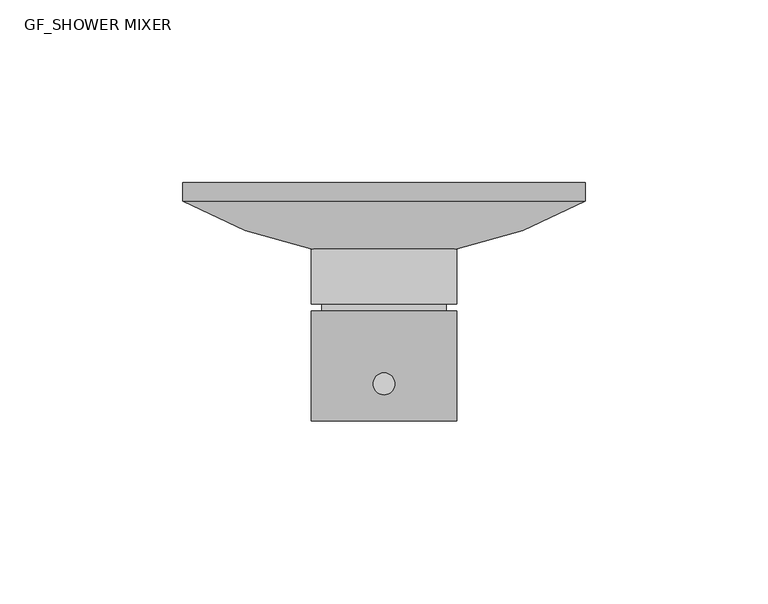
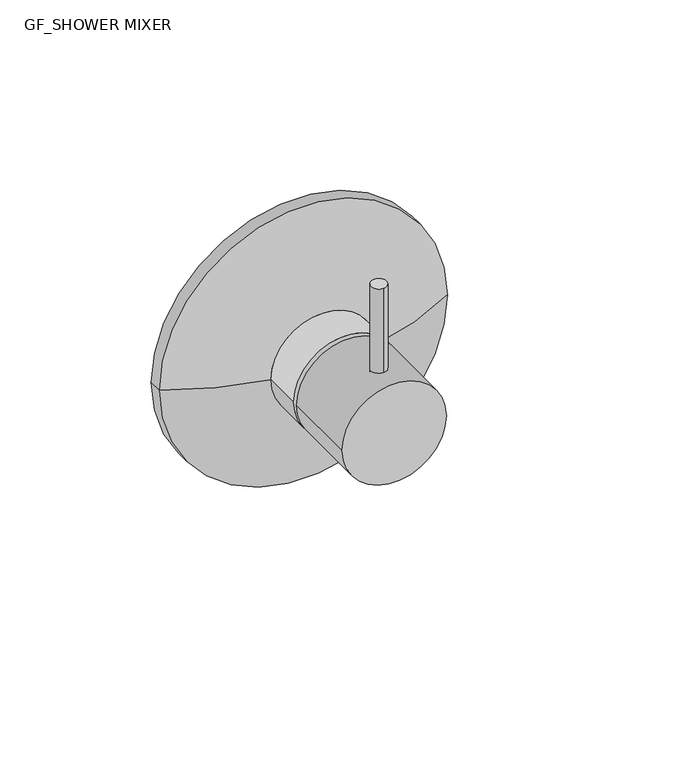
"""IFC4 building model written with IfcOpenShell, lengths in millimetres: flow terminal geometry, GF_SHOWER MIXER : Monomando ducha SPA."""

from ifc_helpers import new_model, si_unit, point, frame, frame_2d, origin, place, context, project, spatial, circle_curve, ellipse_curve, trimmed, segment, composite_curve, outline, extrude, source, transform, mapped, element, save
from ifc_brep_helpers import plane_surface, cylinder_surface, revolved_surface, advanced_brep


def gf_shower_mixer_4253410c(model_context):
    return source(origin(), model_context, "Body", "SolidModel", [
        extrude(outline(composite_curve([segment(trimmed(circle_curve(frame_2d((1092.2, -12.1185542)), 19.84375), [point((1092.2, 7.7251958))], [point((1092.2, -31.9623042))], False, "CARTESIAN"), True, "CONTINUOUS"), segment(trimmed(circle_curve(frame_2d((1092.2, -12.1185542)), 19.84375), [point((1092.2, -31.9623042))], [point((1092.2, 7.7251958))], False, "CARTESIAN"), True, "CONTINUOUS")], self_intersect=False)), frame((0.0, -70.1867187, 0.0), z_axis=(0.0, 1.0, 0.0), x_axis=(0.0, 0.0, 1.0)), (0.0, 0.0, 1.0), 30.0632812),
        extrude(outline(composite_curve([segment(trimmed(circle_curve(frame_2d((-12.1185542, -60.0414784)), 2.9971637), [point((-12.1185542, -63.038642))], [point((-12.1185542, -57.0443147))], False, "CARTESIAN"), True, "CONTINUOUS"), segment(trimmed(circle_curve(frame_2d((-12.1185542, -60.0414784)), 2.9971637), [point((-12.1185542, -57.0443147))], [point((-12.1185542, -63.038642))], False, "CARTESIAN"), True, "CONTINUOUS")], self_intersect=False)), frame((0.0, 0.0, 1092.2), z_axis=(0.0, 0.0, 1.0), x_axis=(1.0, 0.0, 0.0)), (0.0, 0.0, 1.0), 53.975),
        extrude(outline(composite_curve([segment(trimmed(circle_curve(frame_2d((1092.2, -12.1185542)), 19.84375), [point((1092.2, 7.7251958))], [point((1092.2, -31.9623042))], False, "CARTESIAN"), True, "CONTINUOUS"), segment(trimmed(circle_curve(frame_2d((1092.2, -12.1185542)), 19.84375), [point((1092.2, -31.9623042))], [point((1092.2, 7.7251958))], False, "CARTESIAN"), True, "CONTINUOUS")], self_intersect=False)), frame((0.0, -38.1718998, 0.0), z_axis=(0.0, 1.0, 0.0), x_axis=(0.0, 0.0, 1.0)), (0.0, 0.0, 1.0), 15.0),
        extrude(outline(composite_curve([segment(trimmed(circle_curve(frame_2d((1092.2, -12.1185542)), 17.0), [point((1092.2, -29.1185542))], [point((1092.2, 4.8814458))], False, "CARTESIAN"), True, "CONTINUOUS"), segment(trimmed(circle_curve(frame_2d((1092.2, -12.1185542)), 17.0), [point((1092.2, 4.8814458))], [point((1092.2, -29.1185542))], False, "CARTESIAN"), True, "CONTINUOUS")], self_intersect=False)), frame((0.0, -40.1718998, 0.0), z_axis=(0.0, 1.0, 0.0), x_axis=(0.0, 0.0, 1.0)), (0.0, 0.0, 1.0), 2.0),
        advanced_brep(
        [(42.8814458, -5.0, 1092.2), (42.8814458, -10.0, 1092.2), (-67.1185542, -10.0, 1092.2), (-67.1185542, -5.0, 1092.2), (-12.1185542, -5.0, 1092.2), (7.6992767, -23.1718998, 1092.2), (-12.1185542, -23.1718998, 1092.2), (-31.9363851, -23.1718998, 1092.2)],
        [
            (0, 1),
            (1, 2, circle_curve(frame((-12.1185542, -10.0, 1092.2), z_axis=(0.0, 1.0, 0.0), x_axis=(-1.0, 0.0, 0.0)), 55.0)),
            (2, 3),
            (3, 0, circle_curve(frame((-12.1185542, -5.0, 1092.2), z_axis=(0.0, -1.0, 0.0), x_axis=(-1.0, 0.0, 0.0)), 55.0)),
            (2, 1, circle_curve(frame((-12.1185542, -10.0, 1092.2), z_axis=(0.0, 1.0, 0.0), x_axis=(-1.0, 0.0, 0.0)), 55.0)),
            (0, 3, circle_curve(frame((-12.1185542, -5.0, 1092.2), z_axis=(0.0, -1.0, 0.0), x_axis=(-1.0, 0.0, 0.0)), 55.0)),
            (4, 0),
            (3, 4),
            (5, 6),
            (6, 7),
            (7, 5, circle_curve(frame((-12.1185542, -23.1718998, 1092.2), z_axis=(0.0, -1.0, 0.0), x_axis=(-1.0, 0.0, 0.0)), 19.8178309)),
            (5, 7, circle_curve(frame((-12.1185542, -23.1718998, 1092.2), z_axis=(0.0, -1.0, 0.0), x_axis=(-1.0, 0.0, 0.0)), 19.8178309)),
            (1, 5, circle_curve(frame((-12.1185542, 83.3333333, 1092.2), z_axis=(0.0, 0.0, -1.0), x_axis=(0.0, 1.0, 0.0)), 108.3333333)),
            (7, 2, circle_curve(frame((-12.1185542, 83.3333333, 1092.2), z_axis=(0.0, 0.0, -1.0), x_axis=(0.0, 1.0, 0.0)), 108.3333333)),
        ],
        [
            cylinder_surface(frame((-12.1185542, -5.0, 1092.2), z_axis=(0.0, 1.0, 0.0), x_axis=(-1.0, 0.0, 0.0)), 55.0),
            plane_surface(frame((-12.1185542, -5.0, 1092.2), z_axis=(0.0, 1.0, 0.0), x_axis=(-1.0, 0.0, 0.0))),
            plane_surface(frame((-12.1185542, -23.1718998, 1092.2), z_axis=(0.0, -1.0, 0.0), x_axis=(-1.0, 0.0, 0.0))),
            revolved_surface(trimmed(ellipse_curve(frame((-12.1185542, 83.3333333, 1092.2), z_axis=(0.0, 0.0, -1.0), x_axis=(0.0, 1.0, 0.0)), 108.3333333, 108.3333333), [point((-31.9363851, -23.1718998, 1092.2))], [point((-67.1185542, -10.0, 1092.2))], True, "CARTESIAN"), (-12.1185542, -5.0, 1092.2), (0.0, 1.0, 0.0)),
        ],
        [
            (0, [[1, 2, 3, 4]]),
            (0, [[-3, 5, -1, 6]]),
            (1, [[7, -4, 8]]),
            (1, [[-8, -6, -7]]),
            (2, [[9, 10, 11]]),
            (2, [[-10, -9, 12]]),
            (3, [[13, -11, 14, -2]]),
            (3, [[-14, -12, -13, -5]]),
        ],
    ),
    ])


if __name__ == "__main__":
    model = new_model("IFC4")
    model_context = context("Model", 3, world=origin())
    ifc_project = project(units=[si_unit("LENGTHUNIT", "METRE", prefix="MILLI")], contexts=[model_context])
    site = spatial("IfcSite", under=ifc_project)
    building = spatial("IfcBuilding", under=site)
    placement = place(None, origin())
    gf_shower_mixer_shape = gf_shower_mixer_4253410c(model_context)
    element("IfcFlowTerminal", 1, ObjectType="GF_SHOWER MIXER : Monomando ducha SPA", at=placement, inside=building, context=model_context, shape_type="MappedRepresentation", body=[
        mapped(gf_shower_mixer_shape, transform((0.0, 0.0, 0.0), x_axis=(1.0, 0.0, 0.0), y_axis=(0.0, 1.0, 0.0), z_axis=(0.0, 0.0, 1.0))),
    ])
    save(model, "model.ifc")
